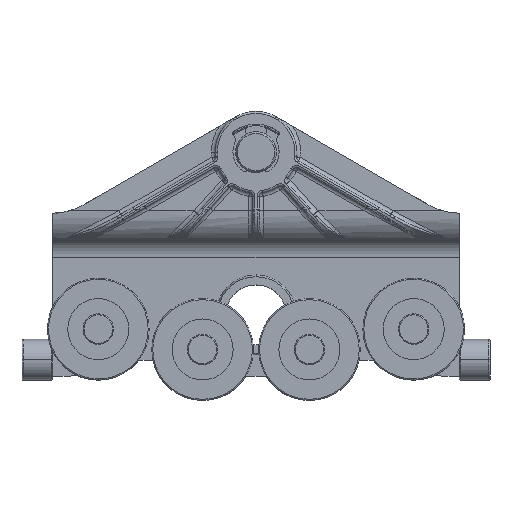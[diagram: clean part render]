
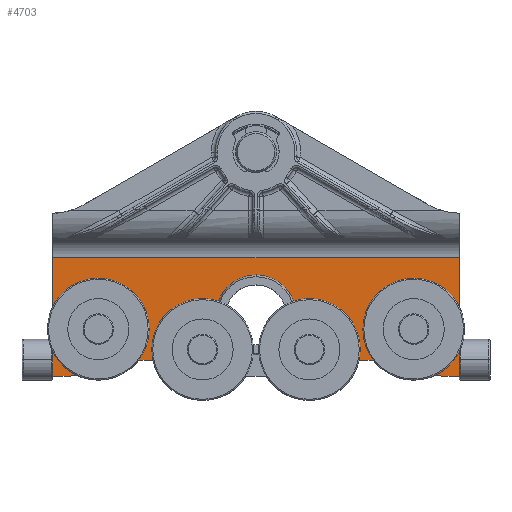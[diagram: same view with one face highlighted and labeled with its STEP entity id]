
A CAD part, top view. The second image highlights one B-rep face of the part: STEP entity #4703.
In plain terms, the highlighted planar face has unit normal (0, 0, 1).
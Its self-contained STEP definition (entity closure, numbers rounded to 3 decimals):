
#1111=DIRECTION('',(-1.,0.,0.));
#1112=VECTOR('',#1111,8.732);
#1113=CARTESIAN_POINT('',(100.,-55.,7.5));
#1114=LINE('',#1113,#1112);
#1144=CARTESIAN_POINT('',(34.817,-51.214,7.5));
#1239=DIRECTION('',(-1.,0.,0.));
#1240=VECTOR('',#1239,8.732);
#1241=CARTESIAN_POINT('',(-91.268,-55.,7.5));
#1242=LINE('',#1241,#1240);
#1268=DIRECTION('',(0.,1.,0.));
#1269=VECTOR('',#1268,58.082);
#1270=CARTESIAN_POINT('',(-100.,-55.,7.5));
#1271=LINE('',#1270,#1269);
#1351=DIRECTION('',(1.,0.,0.));
#1352=VECTOR('',#1351,200.);
#1353=CARTESIAN_POINT('',(-100.,3.082,7.5));
#1354=LINE('',#1353,#1352);
#1355=DIRECTION('',(0.,1.,0.));
#1356=VECTOR('',#1355,58.082);
#1357=CARTESIAN_POINT('',(100.,-55.,7.5));
#1358=LINE('',#1357,#1356);
#1359=CARTESIAN_POINT('',(91.268,-5.,7.5));
#1360=DIRECTION('',(0.,0.,1.));
#1361=DIRECTION('',(-0.406,-0.914,0.));
#1362=AXIS2_PLACEMENT_3D('',#1359,#1360,#1361);
#1364=CARTESIAN_POINT('',(53.5,-89.986,7.5));
#1365=DIRECTION('',(0.,0.,-1.));
#1366=DIRECTION('',(-0.406,0.914,0.));
#1367=AXIS2_PLACEMENT_3D('',#1364,#1365,#1366);
#1369=CARTESIAN_POINT('',(15.732,-5.,7.5));
#1370=DIRECTION('',(0.,0.,1.));
#1371=DIRECTION('',(0.382,-0.924,0.));
#1372=AXIS2_PLACEMENT_3D('',#1369,#1370,#1371);
#1374=CARTESIAN_POINT('',(26.25,-42.,7.5));
#1375=DIRECTION('',(0.,0.,-1.));
#1376=DIRECTION('',(1.,0.,0.));
#1377=AXIS2_PLACEMENT_3D('',#1374,#1375,#1376);
#1379=CARTESIAN_POINT('',(26.25,-42.,7.5));
#1380=DIRECTION('',(0.,0.,-1.));
#1381=DIRECTION('',(-0.634,0.774,0.));
#1382=AXIS2_PLACEMENT_3D('',#1379,#1380,#1381);
#1384=CARTESIAN_POINT('',(-26.25,-42.,7.5));
#1385=DIRECTION('',(0.,0.,-1.));
#1386=DIRECTION('',(-1.,0.,0.));
#1387=AXIS2_PLACEMENT_3D('',#1384,#1385,#1386);
#1389=CARTESIAN_POINT('',(-26.25,-42.,7.5));
#1390=DIRECTION('',(0.,0.,-1.));
#1391=DIRECTION('',(-0.681,-0.732,0.));
#1392=AXIS2_PLACEMENT_3D('',#1389,#1390,#1391);
#1394=CARTESIAN_POINT('',(-15.732,-5.,7.5));
#1395=DIRECTION('',(0.,0.,1.));
#1396=DIRECTION('',(-0.406,-0.914,0.));
#1397=AXIS2_PLACEMENT_3D('',#1394,#1395,#1396);
#1399=CARTESIAN_POINT('',(-53.5,-89.986,7.5));
#1400=DIRECTION('',(0.,0.,-1.));
#1401=DIRECTION('',(-0.406,0.914,0.));
#1402=AXIS2_PLACEMENT_3D('',#1399,#1400,#1401);
#1404=CARTESIAN_POINT('',(-91.268,-5.,7.5));
#1405=DIRECTION('',(0.,0.,1.));
#1406=DIRECTION('',(0.,-1.,0.));
#1407=AXIS2_PLACEMENT_3D('',#1404,#1405,#1406);
#1409=CARTESIAN_POINT('',(77.5,-32.,7.5));
#1410=DIRECTION('',(0.,0.,-1.));
#1411=DIRECTION('',(-1.,0.,0.));
#1412=AXIS2_PLACEMENT_3D('',#1409,#1410,#1411);
#1414=CARTESIAN_POINT('',(77.5,-32.,7.5));
#1415=DIRECTION('',(0.,0.,-1.));
#1416=DIRECTION('',(1.,0.,0.));
#1417=AXIS2_PLACEMENT_3D('',#1414,#1415,#1416);
#1419=CARTESIAN_POINT('',(-77.5,-32.,7.5));
#1420=DIRECTION('',(0.,0.,-1.));
#1421=DIRECTION('',(-1.,0.,0.));
#1422=AXIS2_PLACEMENT_3D('',#1419,#1420,#1421);
#1424=CARTESIAN_POINT('',(-77.5,-32.,7.5));
#1425=DIRECTION('',(0.,0.,-1.));
#1426=DIRECTION('',(1.,0.,0.));
#1427=AXIS2_PLACEMENT_3D('',#1424,#1425,#1426);
#1519=CARTESIAN_POINT('',(0.,-25.,7.5));
#1520=DIRECTION('',(0.,0.,1.));
#1521=DIRECTION('',(0.,1.,0.));
#1522=AXIS2_PLACEMENT_3D('',#1519,#1520,#1521);
#1529=CARTESIAN_POINT('',(0.,-25.,7.5));
#1530=DIRECTION('',(0.,0.,1.));
#1531=DIRECTION('',(0.929,-0.37,0.));
#1532=AXIS2_PLACEMENT_3D('',#1529,#1530,#1531);
#3099=CARTESIAN_POINT('',(0.,-5.331,7.5));
#3100=VERTEX_POINT('',#3099);
#3101=CARTESIAN_POINT('',(-18.277,-32.268,7.5));
#3102=VERTEX_POINT('',#3101);
#3110=VERTEX_POINT('',#1144);
#3111=CARTESIAN_POINT('',(38.831,-42.,7.5));
#3112=VERTEX_POINT('',#3111);
#3117=CARTESIAN_POINT('',(-38.831,-42.,7.5));
#3118=VERTEX_POINT('',#3117);
#3119=CARTESIAN_POINT('',(-34.817,-51.214,7.5));
#3120=VERTEX_POINT('',#3119);
#3128=CARTESIAN_POINT('',(64.919,-32.,7.5));
#3129=VERTEX_POINT('',#3128);
#3130=CARTESIAN_POINT('',(90.081,-32.,7.5));
#3131=VERTEX_POINT('',#3130);
#3132=CARTESIAN_POINT('',(-90.081,-32.,7.5));
#3133=VERTEX_POINT('',#3132);
#3134=CARTESIAN_POINT('',(-64.919,-32.,7.5));
#3135=VERTEX_POINT('',#3134);
#3150=CARTESIAN_POINT('',(-100.,3.082,7.5));
#3152=VERTEX_POINT('',#3150);
#3154=CARTESIAN_POINT('',(100.,3.082,7.5));
#3155=VERTEX_POINT('',#3154);
#3165=CARTESIAN_POINT('',(91.268,-55.,7.5));
#3167=VERTEX_POINT('',#3165);
#3170=CARTESIAN_POINT('',(100.,-55.,7.5));
#3171=VERTEX_POINT('',#3170);
#3173=CARTESIAN_POINT('',(70.963,-50.691,7.5));
#3175=VERTEX_POINT('',#3173);
#3182=CARTESIAN_POINT('',(36.037,-50.691,7.5));
#3183=VERTEX_POINT('',#3182);
#3196=CARTESIAN_POINT('',(-36.037,-50.691,7.5));
#3197=VERTEX_POINT('',#3196);
#3204=CARTESIAN_POINT('',(-70.963,-50.691,7.5));
#3205=VERTEX_POINT('',#3204);
#3206=CARTESIAN_POINT('',(-91.268,-55.,7.5));
#3208=VERTEX_POINT('',#3206);
#3211=CARTESIAN_POINT('',(-100.,-55.,7.5));
#3213=VERTEX_POINT('',#3211);
#3276=CARTESIAN_POINT('',(18.277,-32.268,7.5));
#3277=VERTEX_POINT('',#3276);
#4661=CARTESIAN_POINT('',(-100.,3.082,7.5));
#4662=DIRECTION('',(0.,0.,1.));
#4663=DIRECTION('',(0.,-1.,0.));
#4664=AXIS2_PLACEMENT_3D('',#4661,#4662,#4663);
#4665=PLANE('',#4664);
#4666=ORIENTED_EDGE('',*,*,#4299,.F.);
#4667=ORIENTED_EDGE('',*,*,#4350,.T.);
#4668=ORIENTED_EDGE('',*,*,#4364,.F.);
#4669=ORIENTED_EDGE('',*,*,#4380,.F.);
#4670=ORIENTED_EDGE('',*,*,#4418,.F.);
#4672=ORIENTED_EDGE('',*,*,#4671,.F.);
#4674=ORIENTED_EDGE('',*,*,#4673,.F.);
#4676=ORIENTED_EDGE('',*,*,#4675,.T.);
#4678=ORIENTED_EDGE('',*,*,#4677,.T.);
#4680=ORIENTED_EDGE('',*,*,#4679,.F.);
#4682=ORIENTED_EDGE('',*,*,#4681,.F.);
#4683=ORIENTED_EDGE('',*,*,#4450,.F.);
#4684=ORIENTED_EDGE('',*,*,#4515,.F.);
#4685=ORIENTED_EDGE('',*,*,#4530,.F.);
#4686=ORIENTED_EDGE('',*,*,#4544,.T.);
#4687=ORIENTED_EDGE('',*,*,#4570,.T.);
#4688=ORIENTED_EDGE('',*,*,#4656,.T.);
#4689=EDGE_LOOP('',(#4666,#4667,#4668,#4669,#4670,#4672,#4674,#4676,#4678,#4680,
#4682,#4683,#4684,#4685,#4686,#4687,#4688));
#4690=FACE_OUTER_BOUND('',#4689,.F.);
#4692=ORIENTED_EDGE('',*,*,#4691,.F.);
#4694=ORIENTED_EDGE('',*,*,#4693,.F.);
#4695=EDGE_LOOP('',(#4692,#4694));
#4696=FACE_BOUND('',#4695,.F.);
#4698=ORIENTED_EDGE('',*,*,#4697,.F.);
#4700=ORIENTED_EDGE('',*,*,#4699,.F.);
#4701=EDGE_LOOP('',(#4698,#4700));
#4702=FACE_BOUND('',#4701,.F.);
#1363=CIRCLE('',#1362,50.);
#1368=CIRCLE('',#1367,43.);
#1373=CIRCLE('',#1372,50.);
#1378=CIRCLE('',#1377,12.581);
#1383=CIRCLE('',#1382,12.581);
#1388=CIRCLE('',#1387,12.581);
#1393=CIRCLE('',#1392,12.581);
#1398=CIRCLE('',#1397,50.);
#1403=CIRCLE('',#1402,43.);
#1408=CIRCLE('',#1407,50.);
#1413=CIRCLE('',#1412,12.581);
#1418=CIRCLE('',#1417,12.581);
#1423=CIRCLE('',#1422,12.581);
#1428=CIRCLE('',#1427,12.581);
#1523=CIRCLE('',#1522,19.669);
#1533=CIRCLE('',#1532,19.669);
#4299=EDGE_CURVE('',#3171,#3155,#1358,.T.);
#4350=EDGE_CURVE('',#3171,#3167,#1114,.T.);
#4364=EDGE_CURVE('',#3175,#3167,#1363,.T.);
#4380=EDGE_CURVE('',#3183,#3175,#1368,.T.);
#4418=EDGE_CURVE('',#3110,#3183,#1373,.T.);
#4450=EDGE_CURVE('',#3197,#3120,#1398,.T.);
#4515=EDGE_CURVE('',#3205,#3197,#1403,.T.);
#4530=EDGE_CURVE('',#3208,#3205,#1408,.T.);
#4544=EDGE_CURVE('',#3208,#3213,#1242,.T.);
#4570=EDGE_CURVE('',#3213,#3152,#1271,.T.);
#4656=EDGE_CURVE('',#3152,#3155,#1354,.T.);
#4671=EDGE_CURVE('',#3112,#3110,#1378,.T.);
#4673=EDGE_CURVE('',#3277,#3112,#1383,.T.);
#4675=EDGE_CURVE('',#3277,#3100,#1533,.T.);
#4677=EDGE_CURVE('',#3100,#3102,#1523,.T.);
#4679=EDGE_CURVE('',#3118,#3102,#1388,.T.);
#4681=EDGE_CURVE('',#3120,#3118,#1393,.T.);
#4691=EDGE_CURVE('',#3129,#3131,#1413,.T.);
#4693=EDGE_CURVE('',#3131,#3129,#1418,.T.);
#4697=EDGE_CURVE('',#3133,#3135,#1423,.T.);
#4699=EDGE_CURVE('',#3135,#3133,#1428,.T.);
#4703=ADVANCED_FACE('',(#4690,#4696,#4702),#4665,.T.);
